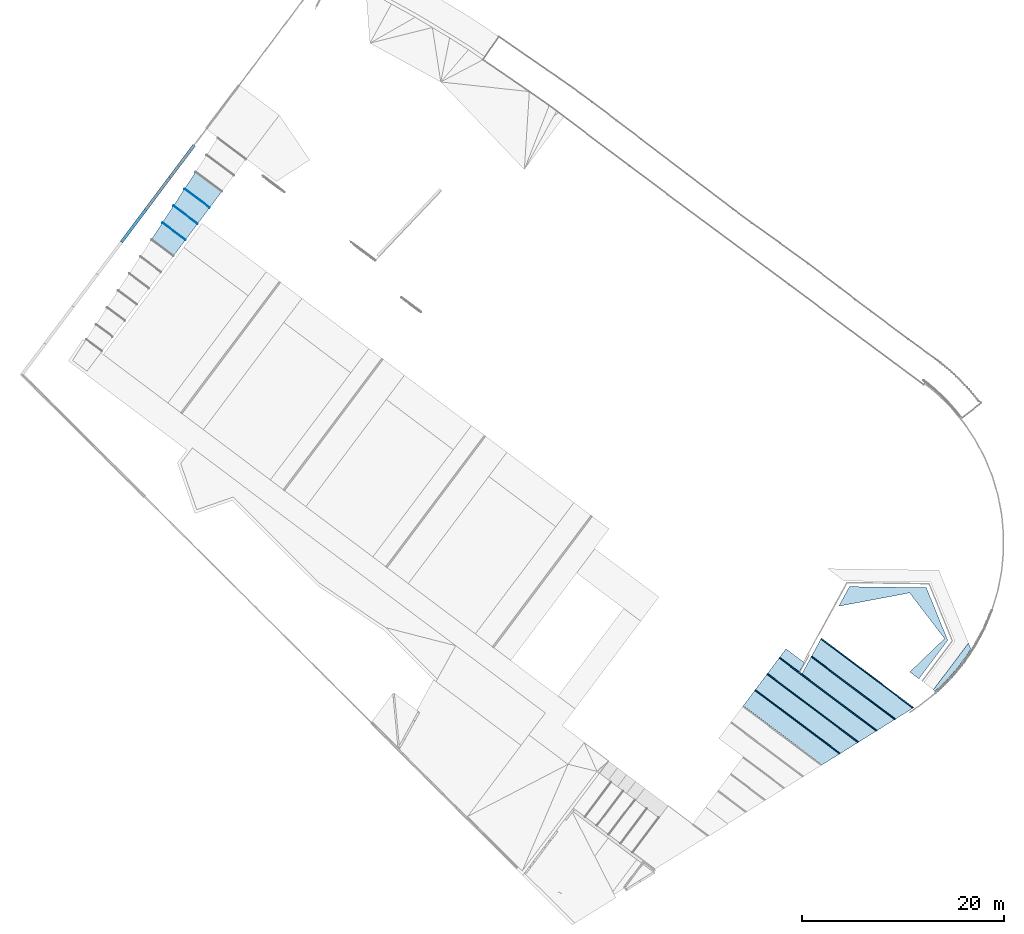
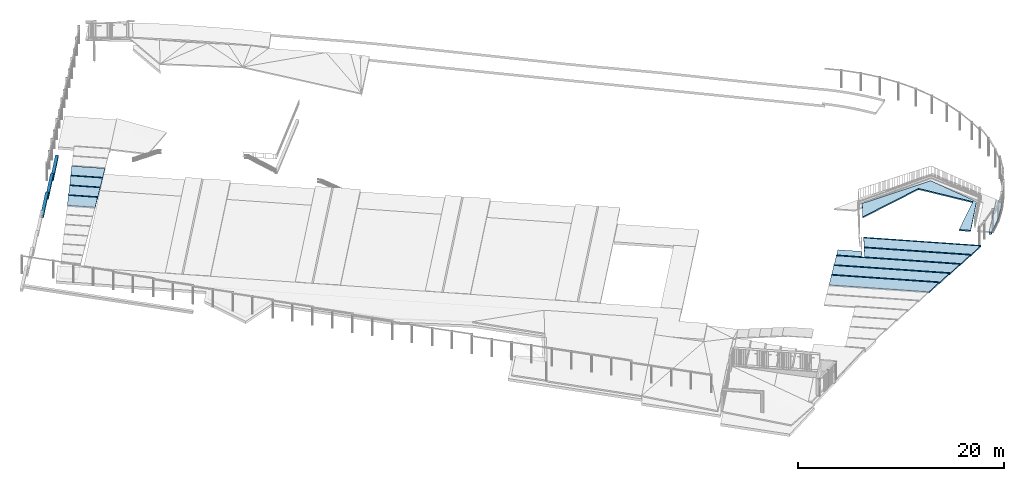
# One storey, part 22 of 33: 23 slabs.
"""IFC2X3 building model written with IfcOpenShell, lengths in metres."""

from ifc_helpers import new_model, entity, si_unit, converted_unit, derived_unit, direction, frame, frame_2d, origin, place, context, subcontext, project, spatial, polyline, circle_curve, ellipse_curve, parameter, trimmed, segment, composite_curve, rectangle, outline, extrude, clip, halfspace, material, layer, layer_set, layer_usage, type_object, element, save


model = new_model("IFC2X3")

# Units and contexts
model_context = context("Model", 3, precision=1e-05, world=origin(), true_north=direction((6.123031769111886e-17, 1.0)))
body_context = subcontext(model_context, "Body", "Model", "MODEL_VIEW")
ifc_project = project(units=[si_unit("LENGTHUNIT", "METRE"), si_unit("AREAUNIT", "SQUARE_METRE"), si_unit("VOLUMEUNIT", "CUBIC_METRE"), converted_unit("PLANEANGLEUNIT", "DEGREE", entity("IfcRatioMeasure", 0.017453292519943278), si_unit("PLANEANGLEUNIT", "RADIAN"), dimensions=[0, 0, 0, 0, 0, 0, 0]), si_unit("MASSUNIT", "GRAM", prefix="KILO"), derived_unit("MASSDENSITYUNIT", [(si_unit("MASSUNIT", "GRAM", prefix="KILO"), 1), (si_unit("LENGTHUNIT", "METRE"), -3)]), derived_unit("IONCONCENTRATIONUNIT", [(si_unit("MASSUNIT", "GRAM", prefix="KILO"), 1), (si_unit("LENGTHUNIT", "METRE"), -3)]), derived_unit("MOMENTOFINERTIAUNIT", [(si_unit("LENGTHUNIT", "METRE"), 4)]), si_unit("TIMEUNIT", "SECOND"), si_unit("FREQUENCYUNIT", "HERTZ"), si_unit("THERMODYNAMICTEMPERATUREUNIT", "DEGREE_CELSIUS"), derived_unit("THERMALTRANSMITTANCEUNIT", [(si_unit("MASSUNIT", "GRAM", prefix="KILO"), 1), (si_unit("THERMODYNAMICTEMPERATUREUNIT", "KELVIN"), -1), (si_unit("TIMEUNIT", "SECOND"), -3)]), derived_unit("THERMALCONDUCTANCEUNIT", [(si_unit("MASSUNIT", "GRAM", prefix="KILO"), 1), (si_unit("THERMODYNAMICTEMPERATUREUNIT", "KELVIN"), -1), (si_unit("TIMEUNIT", "SECOND"), -3), (si_unit("LENGTHUNIT", "METRE"), 1)]), derived_unit("VOLUMETRICFLOWRATEUNIT", [(si_unit("LENGTHUNIT", "METRE"), 3), (si_unit("TIMEUNIT", "SECOND"), -1)]), derived_unit("MASSFLOWRATEUNIT", [(si_unit("MASSUNIT", "GRAM", prefix="KILO"), 1), (si_unit("TIMEUNIT", "SECOND"), -1)]), derived_unit("ROTATIONALFREQUENCYUNIT", [(si_unit("TIMEUNIT", "SECOND"), -1)]), si_unit("ELECTRICCURRENTUNIT", "AMPERE"), si_unit("ELECTRICVOLTAGEUNIT", "VOLT"), si_unit("POWERUNIT", "WATT"), si_unit("FORCEUNIT", "NEWTON", prefix="KILO"), si_unit("ILLUMINANCEUNIT", "LUX"), si_unit("LUMINOUSFLUXUNIT", "LUMEN"), si_unit("LUMINOUSINTENSITYUNIT", "CANDELA"), derived_unit("USERDEFINED", [(si_unit("MASSUNIT", "GRAM", prefix="KILO"), -1), (si_unit("LENGTHUNIT", "METRE"), -2), (si_unit("TIMEUNIT", "SECOND"), 3), (si_unit("LUMINOUSFLUXUNIT", "LUMEN"), 1)]), derived_unit("USERDEFINED", [(si_unit("MASSUNIT", "GRAM", prefix="KILO"), 1), (si_unit("TIMEUNIT", "SECOND"), -3), (si_unit("LENGTHUNIT", "METRE"), 3), (si_unit("ELECTRICCURRENTUNIT", "AMPERE"), -2)]), derived_unit("SOUNDPOWERUNIT", [(si_unit("MASSUNIT", "GRAM", prefix="KILO"), 1), (si_unit("TIMEUNIT", "SECOND"), -3), (si_unit("LENGTHUNIT", "METRE"), 2)]), derived_unit("SOUNDPRESSUREUNIT", [(si_unit("MASSUNIT", "GRAM", prefix="KILO"), 1), (si_unit("LENGTHUNIT", "METRE"), -1), (si_unit("TIMEUNIT", "SECOND"), -2)]), derived_unit("LINEARVELOCITYUNIT", [(si_unit("LENGTHUNIT", "METRE"), 1), (si_unit("TIMEUNIT", "SECOND"), -1)]), si_unit("PRESSUREUNIT", "PASCAL"), derived_unit("USERDEFINED", [(si_unit("MASSUNIT", "GRAM", prefix="KILO"), 1), (si_unit("LENGTHUNIT", "METRE"), -2), (si_unit("TIMEUNIT", "SECOND"), -2)]), derived_unit("LINEARFORCEUNIT", [(si_unit("MASSUNIT", "GRAM", prefix="KILO"), 1), (si_unit("TIMEUNIT", "SECOND"), -2)]), derived_unit("PLANARFORCEUNIT", [(si_unit("MASSUNIT", "GRAM", prefix="KILO"), 1), (si_unit("LENGTHUNIT", "METRE"), -1), (si_unit("TIMEUNIT", "SECOND"), -2)]), derived_unit("SPECIFICHEATCAPACITYUNIT", [(si_unit("THERMODYNAMICTEMPERATUREUNIT", "KELVIN"), -1), (si_unit("LENGTHUNIT", "METRE"), 2), (si_unit("TIMEUNIT", "SECOND"), -2)]), derived_unit("HEATINGVALUEUNIT", [(si_unit("LENGTHUNIT", "METRE"), 2), (si_unit("TIMEUNIT", "SECOND"), -2)]), derived_unit("VAPORPERMEABILITYUNIT", [(si_unit("LENGTHUNIT", "METRE"), -1), (si_unit("TIMEUNIT", "SECOND"), 1)]), derived_unit("DYNAMICVISCOSITYUNIT", [(si_unit("MASSUNIT", "GRAM", prefix="KILO"), 1), (si_unit("TIMEUNIT", "SECOND"), -1), (si_unit("LENGTHUNIT", "METRE"), -1)]), derived_unit("THERMALEXPANSIONCOEFFICIENTUNIT", [(si_unit("THERMODYNAMICTEMPERATUREUNIT", "KELVIN"), -1)]), derived_unit("MODULUSOFELASTICITYUNIT", [(si_unit("MASSUNIT", "GRAM", prefix="KILO"), 1), (si_unit("LENGTHUNIT", "METRE"), -1), (si_unit("TIMEUNIT", "SECOND"), -2)]), derived_unit("ISOTHERMALMOISTURECAPACITYUNIT", [(si_unit("LENGTHUNIT", "METRE"), 3), (si_unit("MASSUNIT", "GRAM", prefix="KILO"), -1)]), derived_unit("MOISTUREDIFFUSIVITYUNIT", [(si_unit("TIMEUNIT", "SECOND"), -1), (si_unit("LENGTHUNIT", "METRE"), 2)])], contexts=[model_context])

# Site, building, storey
site_placement = place(None, origin())
site = spatial("IfcSite", under=ifc_project, at=site_placement, Name="Superficie", CompositionType="ELEMENT")
building_placement = place(site_placement, frame((0.0, 0.0, 235.0), z_axis=(0.0, 0.0, 1.0), x_axis=(-0.7996477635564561, 0.6004693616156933, 0.0)))
building = spatial("IfcBuilding", under=site, at=building_placement, CompositionType="ELEMENT")
storey_placement = place(building_placement, origin())
storey = spatial("IfcBuildingStorey", under=building, at=storey_placement, Name="P0- Escola", CompositionType="ELEMENT", Elevation=0.0)

# Slabs
ifc_material_1 = material(Name="_Topografia- Plataformes")
ifc_layer_1 = layer(ifc_material_1, 0.29999999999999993)
ifc_layer_set_1 = layer_set([ifc_layer_1], Name="Plataforma:300 mm")
ifc_layer_usage_1 = layer_usage(ifc_layer_set_1, "AXIS3", "POSITIVE", 0.0)
slab_type_1 = type_object("IfcSlabType", Name="Plataforma:300 mm", PredefinedType="FLOOR", material=ifc_layer_set_1)
slab_1_placement = place(storey_placement, origin())
element("IfcSlab", 1, at=slab_1_placement, inside=storey, type_object=slab_type_1, material=ifc_layer_usage_1, Name="Plataforma:300 mm", ObjectType="Plataforma:300 mm", PredefinedType="FLOOR", context=body_context, shape_type="SweptSolid", body=[
    extrude(rectangle(XDim=4.000000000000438, YDim=0.3000158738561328, at=frame_2d((0.0, -8.659739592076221e-15), x_axis=(1.0, 0.0))), frame((79.69492994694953, -40.14728884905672, -3.0), z_axis=(0.0, 0.0, 1.0), x_axis=(0.0, 1.0, 0.0)), (0.0, 0.0, 1.0), 0.30000000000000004),
])
slab_2_placement = place(storey_placement, origin())
element("IfcSlab", 2, at=slab_2_placement, inside=storey, type_object=slab_type_1, material=ifc_layer_usage_1, Name="Plataforma:300 mm", ObjectType="Plataforma:300 mm", PredefinedType="FLOOR", context=body_context, shape_type="SweptSolid", body=[
    extrude(rectangle(XDim=4.000000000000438, YDim=0.3000158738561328, at=frame_2d((0.0, -8.659739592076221e-15), x_axis=(1.0, 0.0))), frame((79.69492994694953, -36.14728884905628, -2.399999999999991), z_axis=(0.0, 0.0, 1.0), x_axis=(0.0, 1.0, 0.0)), (0.0, 0.0, 1.0), 0.30000000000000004),
])
slab_3_placement = place(storey_placement, origin())
element("IfcSlab", 3, at=slab_3_placement, inside=storey, type_object=slab_type_1, material=ifc_layer_usage_1, Name="Plataforma:300 mm", ObjectType="Plataforma:300 mm", PredefinedType="FLOOR", context=body_context, shape_type="SweptSolid", body=[
    extrude(rectangle(XDim=4.000000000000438, YDim=0.3000158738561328, at=frame_2d((0.0, -8.659739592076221e-15), x_axis=(1.0, 0.0))), frame((79.69492994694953, -32.14728884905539, -1.799999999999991), z_axis=(0.0, 0.0, 1.0), x_axis=(0.0, 1.0, 0.0)), (0.0, 0.0, 1.0), 0.30000000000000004),
])
slab_4_placement = place(storey_placement, frame((-11.88286093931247, -48.75630244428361, -5.303934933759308)))
element("IfcSlab", 4, at=slab_4_placement, inside=storey, type_object=slab_type_1, material=ifc_layer_usage_1, Name="Plataforma:300 mm", ObjectType="Plataforma:300 mm", PredefinedType="FLOOR", context=body_context, shape_type="SweptSolid", body=[
    extrude(outline(composite_curve([segment(trimmed(ellipse_curve(frame_2d((19.143480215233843, -3.9238751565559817), x_axis=(1.0, 0.0)), 19.64999999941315, 19.6770600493), [parameter(168.4973246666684)], [parameter(184.4594766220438)], True, "PARAMETER"), True, "CONTINUOUS"), segment(polyline([(-0.44703089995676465, -5.453845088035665), (0.11185728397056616, -5.7894867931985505)]), True, "CONTINUOUS"), segment(polyline([(0.11185728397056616, -5.7894867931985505), (0.11185728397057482, 0.0)]), True, "CONTINUOUS"), segment(polyline([(0.11185728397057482, 0.0), (-0.11185728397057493, 0.0)]), True, "CONTINUOUS")], self_intersect=False)), frame((0.5064860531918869, 5.781525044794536, 0.6039349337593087), z_axis=(0.0, -0.052426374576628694, 0.9986247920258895), x_axis=(1.0, 0.0, 0.0)), (0.0, -0.052426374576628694, -0.9986247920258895), 0.3004131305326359),
])
ifc_material_2 = material(Name="_Formigó- Solera- T1- STR")
ifc_layer_2 = layer(ifc_material_2, 0.14999999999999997)
ifc_layer_set_2 = layer_set([ifc_layer_2], Name="Suelo:STR- L- Formigó- Solera- T1- 15 cm")
ifc_layer_usage_2 = layer_usage(ifc_layer_set_2, "AXIS3", "POSITIVE", 0.0)
slab_type_2 = type_object("IfcSlabType", Name="Suelo:STR- L- Formigó- Solera- T1- 15 cm", PredefinedType="FLOOR", material=ifc_layer_set_2)
slab_5_placement = place(storey_placement, origin())
element("IfcSlab", 5, at=slab_5_placement, inside=storey, type_object=slab_type_2, material=ifc_layer_usage_2, Name="Suelo:STR- L- Formigó- Solera- T1- 15 cm", ObjectType="Suelo:STR- L- Formigó- Solera- T1- 15 cm", PredefinedType="FLOOR", context=body_context, shape_type="SweptSolid", body=[
    clip(clip(extrude(outline(polyline([(-1.3219334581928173, -4.225105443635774), (3.4411622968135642, -4.225105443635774), (3.4411622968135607, -3.100743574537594), (-1.2691755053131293, -3.871489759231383), (-2.810056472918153, 1.6187749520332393), (2.4634552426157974, 6.439723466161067), (0.27423440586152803, 6.759623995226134), (-4.218848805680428, 0.6043218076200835), (-1.3219334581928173, -4.225105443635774)])), frame((-5.239412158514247, -46.41525167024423, -4.624330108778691), z_axis=(0.0, -0.019996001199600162, -0.999800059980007), x_axis=(0.0, 0.999800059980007, -0.019996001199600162)), (0.019996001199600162, 0.0, 0.999800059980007), 0.1500600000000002), halfspace(frame((-2.371027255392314, -47.858103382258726, -4.745503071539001), z_axis=(0.0, -0.01999600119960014, -0.999800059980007), x_axis=(0.0, -0.999800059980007, 0.01999600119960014)), False)), halfspace(frame((-2.371027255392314, -47.858103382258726, -4.595473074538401), z_axis=(0.0, 0.01999600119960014, 0.999800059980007), x_axis=(0.0, 0.999800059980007, -0.01999600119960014)), False)),
])
slab_6_placement = place(storey_placement, origin())
element("IfcSlab", 6, at=slab_6_placement, inside=storey, type_object=slab_type_2, material=ifc_layer_usage_2, Name="Suelo:STR- L- Formigó- Solera- T1- 15 cm", ObjectType="Suelo:STR- L- Formigó- Solera- T1- 15 cm", PredefinedType="FLOOR", context=body_context, shape_type="SweptSolid", body=[
    clip(clip(extrude(outline(polyline([(-0.04012779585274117, -1.5570002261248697), (0.04012779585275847, -1.5570002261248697), (0.04012779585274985, 1.5543660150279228), (-0.04012779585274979, 1.5596344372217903), (-0.04012779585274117, -1.5570002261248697)])), frame((76.30214790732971, -38.10019175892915, -2.1677999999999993), z_axis=(0.0, 0.0797452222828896, -0.9968152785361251), x_axis=(0.0, 0.9968152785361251, 0.0797452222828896)), (-0.0797452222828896, 0.0, 0.9968152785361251), 0.15096000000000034), halfspace(frame((74.74514768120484, -38.06019175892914, -2.315079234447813), z_axis=(0.0, 0.07974522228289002, -0.9968152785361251), x_axis=(0.0, 0.9968152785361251, 0.07974522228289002)), False)), halfspace(frame((74.74514768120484, -38.06019175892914, -2.1645999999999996), z_axis=(0.0, -0.07974522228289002, 0.9968152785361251), x_axis=(0.0, -0.9968152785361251, -0.07974522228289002)), False)),
])
slab_7_placement = place(storey_placement, origin())
element("IfcSlab", 7, at=slab_7_placement, inside=storey, type_object=slab_type_2, material=ifc_layer_usage_2, Name="Suelo:STR- L- Formigó- Solera- T1- 15 cm", ObjectType="Suelo:STR- L- Formigó- Solera- T1- 15 cm", PredefinedType="FLOOR", context=body_context, shape_type="SweptSolid", body=[
    clip(clip(extrude(outline(polyline([(-0.040127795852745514, -1.4911449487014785), (0.04012779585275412, -1.4911449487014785), (0.040127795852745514, 1.4885107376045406), (-0.04012779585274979, 1.493779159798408), (-0.040127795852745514, -1.4911449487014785)])), frame((76.2362926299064, -36.10019175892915, -1.9247999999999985), z_axis=(0.0, 0.0797452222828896, -0.9968152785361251), x_axis=(0.0, 0.9968152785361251, 0.0797452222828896)), (-0.0797452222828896, 0.0, 0.9968152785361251), 0.15096000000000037), halfspace(frame((74.74514768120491, -36.06019175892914, -2.072079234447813), z_axis=(0.0, 0.07974522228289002, -0.9968152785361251), x_axis=(0.0, 0.9968152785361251, 0.07974522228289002)), False)), halfspace(frame((74.74514768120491, -36.06019175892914, -1.9215999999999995), z_axis=(0.0, -0.07974522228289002, 0.9968152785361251), x_axis=(0.0, -0.9968152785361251, -0.07974522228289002)), False)),
])
slab_8_placement = place(storey_placement, origin())
element("IfcSlab", 8, at=slab_8_placement, inside=storey, type_object=slab_type_2, material=ifc_layer_usage_2, Name="Suelo:STR- L- Formigó- Solera- T1- 15 cm", ObjectType="Suelo:STR- L- Formigó- Solera- T1- 15 cm", PredefinedType="FLOOR", context=body_context, shape_type="SweptSolid", body=[
    clip(clip(extrude(outline(polyline([(-0.04012779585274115, -1.4252896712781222), (0.04012779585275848, -1.4252896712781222), (0.04012779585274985, 1.4226554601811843), (-0.04012779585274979, 1.4279238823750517), (-0.04012779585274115, -1.4252896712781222)])), frame((76.17043735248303, -34.10019175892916, -1.6817999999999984), z_axis=(0.0, 0.0797452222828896, -0.9968152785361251), x_axis=(0.0, 0.9968152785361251, 0.0797452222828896)), (-0.0797452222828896, 0.0, 0.9968152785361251), 0.15096000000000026), halfspace(frame((74.74514768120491, -34.06019175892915, -1.829079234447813), z_axis=(0.0, 0.07974522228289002, -0.9968152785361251), x_axis=(0.0, 0.9968152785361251, 0.07974522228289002)), False)), halfspace(frame((74.74514768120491, -34.06019175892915, -1.6785999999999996), z_axis=(0.0, -0.07974522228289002, 0.9968152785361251), x_axis=(0.0, -0.9968152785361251, -0.07974522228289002)), False)),
])
slab_9_placement = place(storey_placement, origin())
element("IfcSlab", 9, at=slab_9_placement, inside=storey, type_object=slab_type_2, material=ifc_layer_usage_2, Name="Suelo:STR- L- Formigó- Solera- T1- 15 cm", ObjectType="Suelo:STR- L- Formigó- Solera- T1- 15 cm", PredefinedType="FLOOR", context=body_context, shape_type="SweptSolid", body=[
    clip(clip(extrude(outline(polyline([(-5.259338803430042, -0.05015974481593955), (5.2786719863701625, -0.0501597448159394), (5.240005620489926, 0.050159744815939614), (-5.259338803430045, 0.050159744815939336), (-5.259338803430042, -0.05015974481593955)])), frame((-2.414191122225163, -32.34019175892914, -3.6040160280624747), z_axis=(0.0, 0.0797452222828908, -0.996815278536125), x_axis=(-1.0, 0.0, 0.0)), (0.0, -0.0797452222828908, 0.996815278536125), 0.1509600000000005), halfspace(frame((-2.7608358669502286, -32.390191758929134, -3.7584952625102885), z_axis=(0.0, 0.07974522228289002, -0.9968152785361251), x_axis=(0.0, 0.9968152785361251, 0.07974522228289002)), False)), halfspace(frame((-2.7608358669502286, -32.390191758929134, -3.608016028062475), z_axis=(0.0, -0.07974522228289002, 0.9968152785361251), x_axis=(0.0, -0.9968152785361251, -0.07974522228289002)), False)),
])
slab_10_placement = place(storey_placement, origin())
element("IfcSlab", 10, at=slab_10_placement, inside=storey, type_object=slab_type_2, material=ifc_layer_usage_2, Name="Suelo:STR- L- Formigó- Solera- T1- 15 cm", ObjectType="Suelo:STR- L- Formigó- Solera- T1- 15 cm", PredefinedType="FLOOR", context=body_context, shape_type="SweptSolid", body=[
    clip(clip(extrude(outline(polyline([(-5.645991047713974, -0.05015974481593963), (5.66532443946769, -0.05015974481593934), (5.62665765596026, 0.050159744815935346), (-5.645991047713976, 0.05015974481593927), (-5.645991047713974, -0.05015974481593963)])), frame((-2.8008433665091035, -34.34019175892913, -3.844016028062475), z_axis=(0.0, 0.0797452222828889, -0.9968152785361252), x_axis=(-1.0, 0.0, 0.0)), (0.0, -0.0797452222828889, 0.9968152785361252), 0.15096000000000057), halfspace(frame((-2.760835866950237, -34.390191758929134, -3.9984952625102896), z_axis=(0.0, 0.07974522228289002, -0.9968152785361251), x_axis=(0.0, 0.9968152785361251, 0.07974522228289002)), False)), halfspace(frame((-2.760835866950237, -34.390191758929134, -3.8480160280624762), z_axis=(0.0, -0.07974522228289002, 0.9968152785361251), x_axis=(0.0, -0.9968152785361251, -0.07974522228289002)), False)),
])
slab_11_placement = place(storey_placement, origin())
element("IfcSlab", 11, at=slab_11_placement, inside=storey, type_object=slab_type_2, material=ifc_layer_usage_2, Name="Suelo:STR- L- Formigó- Solera- T1- 15 cm", ObjectType="Suelo:STR- L- Formigó- Solera- T1- 15 cm", PredefinedType="FLOOR", context=body_context, shape_type="SweptSolid", body=[
    clip(clip(extrude(outline(polyline([(-6.032658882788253, -0.050159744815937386), (6.0519922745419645, -0.05015974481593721), (6.0133254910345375, 0.050159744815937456), (-6.032658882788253, 0.05015974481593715), (-6.032658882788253, -0.050159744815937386)])), frame((-3.187511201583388, -36.34019175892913, -4.084016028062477), z_axis=(0.0, 0.07974522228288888, -0.9968152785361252), x_axis=(-1.0, 0.0, 0.0)), (0.0, -0.07974522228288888, 0.9968152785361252), 0.1509600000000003), halfspace(frame((-2.760835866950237, -36.390191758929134, -4.23849526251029), z_axis=(0.0, 0.07974522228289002, -0.9968152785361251), x_axis=(0.0, 0.9968152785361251, 0.07974522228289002)), False)), halfspace(frame((-2.760835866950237, -36.390191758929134, -4.088016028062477), z_axis=(0.0, -0.07974522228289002, 0.9968152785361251), x_axis=(0.0, -0.9968152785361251, -0.07974522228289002)), False)),
])
slab_12_placement = place(storey_placement, origin())
element("IfcSlab", 12, at=slab_12_placement, inside=storey, type_object=slab_type_2, material=ifc_layer_usage_2, Name="Suelo:STR- L- Formigó- Solera- T1- 15 cm", ObjectType="Suelo:STR- L- Formigó- Solera- T1- 15 cm", PredefinedType="FLOOR", context=body_context, shape_type="SweptSolid", body=[
    clip(clip(extrude(outline(polyline([(-5.194099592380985, -0.05015974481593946), (5.206125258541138, -0.05015974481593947), (5.167458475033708, 0.050159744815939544), (-5.1794841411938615, 0.050159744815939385), (-5.194099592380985, -0.05015974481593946)])), frame((-4.806713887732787, -38.34019175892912, -4.322416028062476), z_axis=(0.0, 0.07974522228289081, -0.996815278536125), x_axis=(-1.0, 0.0, 0.0)), (0.0, -0.07974522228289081, 0.996815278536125), 0.15096000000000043), halfspace(frame((-2.760835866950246, -38.390191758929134, -4.476895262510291), z_axis=(0.0, 0.07974522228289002, -0.9968152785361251), x_axis=(0.0, 0.9968152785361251, 0.07974522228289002)), False)), halfspace(frame((-2.760835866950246, -38.390191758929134, -4.326416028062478), z_axis=(0.0, -0.07974522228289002, 0.9968152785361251), x_axis=(0.0, -0.9968152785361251, -0.07974522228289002)), False)),
])
slab_13_placement = place(storey_placement, origin())
element("IfcSlab", 13, at=slab_13_placement, inside=storey, type_object=slab_type_2, material=ifc_layer_usage_2, Name="Suelo:STR- L- Formigó- Solera- T1- 15 cm", ObjectType="Suelo:STR- L- Formigó- Solera- T1- 15 cm", PredefinedType="FLOOR", context=body_context, shape_type="SweptSolid", body=[
    clip(clip(extrude(outline(composite_curve([segment(polyline([(-5.722467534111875, -0.05015974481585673), (5.732846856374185, -0.05015974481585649)]), True, "CONTINUOUS"), segment(trimmed(circle_curve(frame_2d((-12.915252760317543, -6.5693515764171), x_axis=(0.9439789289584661, 0.3300057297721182)), 19.75478376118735), [parameter(0.0)], [parameter(0.30852078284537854)], True, "PARAMETER"), True, "CONTINUOUS"), segment(polyline([(5.6974727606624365, 0.050159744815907), (-5.707852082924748, 0.05015974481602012)]), True, "CONTINUOUS"), segment(polyline([(-5.707852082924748, 0.05015974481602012), (-5.722467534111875, -0.05015974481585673)]), True, "CONTINUOUS")], self_intersect=False)), frame((-5.042772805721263, -40.340191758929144, -4.56241602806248), z_axis=(0.0, 0.0797452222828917, -0.996815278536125), x_axis=(-1.0, 0.0, 0.0)), (0.0, -0.0797452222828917, 0.996815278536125), 0.1509600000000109), halfspace(frame((-2.760835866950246, -40.39019175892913, -4.716895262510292), z_axis=(0.0, 0.07974522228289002, -0.9968152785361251), x_axis=(0.0, 0.9968152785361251, 0.07974522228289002)), False)), halfspace(frame((-2.760835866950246, -40.39019175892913, -4.566416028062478), z_axis=(0.0, -0.07974522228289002, 0.9968152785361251), x_axis=(0.0, -0.9968152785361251, -0.07974522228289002)), False)),
])
ifc_material_3 = material(Name="_Saulo T1- PAV")
ifc_layer_3 = layer(ifc_material_3, 0.14999999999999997)
ifc_layer_set_3 = layer_set([ifc_layer_3], Name="Suelo:PAV- Saulo- 15 cm- T1")
ifc_layer_usage_3 = layer_usage(ifc_layer_set_3, "AXIS3", "POSITIVE", 0.0)
slab_type_3 = type_object("IfcSlabType", Name="Suelo:PAV- Saulo- 15 cm- T1", PredefinedType="FLOOR", material=ifc_layer_set_3)
slab_14_placement = place(storey_placement, origin())
element("IfcSlab", 14, at=slab_14_placement, inside=storey, type_object=slab_type_3, material=ifc_layer_usage_3, Name="Suelo:PAV- Saulo- 15 cm- T1", ObjectType="Suelo:PAV- Saulo- 15 cm- T1", PredefinedType="FLOOR", context=body_context, shape_type="SweptSolid", body=[
    clip(clip(extrude(outline(polyline([(-0.9630671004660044, -1.5899278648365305), (0.9630671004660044, -1.5899278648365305), (0.9630671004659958, 1.5267067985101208), (-0.963067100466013, 1.6531489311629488), (-0.9630671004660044, -1.5899278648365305)])), frame((76.33507554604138, -39.10019175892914, -2.3307999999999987), z_axis=(0.0, 0.07974522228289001, -0.9968152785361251), x_axis=(0.0, 0.9968152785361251, 0.07974522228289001)), (-0.07974522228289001, 0.0, 0.9968152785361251), 0.1509600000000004), halfspace(frame((74.74514768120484, -38.14019175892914, -2.404479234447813), z_axis=(0.0, 0.07974522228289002, -0.9968152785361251), x_axis=(0.0, 0.9968152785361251, 0.07974522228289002)), False)), halfspace(frame((74.74514768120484, -38.14019175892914, -2.253999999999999), z_axis=(0.0, -0.07974522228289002, 0.9968152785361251), x_axis=(0.0, -0.9968152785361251, -0.07974522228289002)), False)),
])
slab_15_placement = place(storey_placement, origin())
element("IfcSlab", 15, at=slab_15_placement, inside=storey, type_object=slab_type_3, material=ifc_layer_usage_3, Name="Suelo:PAV- Saulo- 15 cm- T1", ObjectType="Suelo:PAV- Saulo- 15 cm- T1", PredefinedType="FLOOR", context=body_context, shape_type="SweptSolid", body=[
    clip(clip(extrude(outline(polyline([(-0.9630671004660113, -1.5240725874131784), (0.9630671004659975, -1.5240725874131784), (0.9630671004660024, 1.4608515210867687), (-0.9630671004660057, 1.587293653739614), (-0.9630671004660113, -1.5240725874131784)])), frame((76.26922026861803, -37.10019175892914, -2.0877999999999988), z_axis=(0.0, 0.07974522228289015, -0.9968152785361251), x_axis=(0.0, 0.9968152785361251, 0.07974522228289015)), (-0.07974522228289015, 0.0, 0.9968152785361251), 0.15096000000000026), halfspace(frame((74.74514768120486, -36.14019175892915, -2.1614792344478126), z_axis=(0.0, 0.07974522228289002, -0.9968152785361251), x_axis=(0.0, 0.9968152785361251, 0.07974522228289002)), False)), halfspace(frame((74.74514768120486, -36.14019175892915, -2.0109999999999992), z_axis=(0.0, -0.07974522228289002, 0.9968152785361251), x_axis=(0.0, -0.9968152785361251, -0.07974522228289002)), False)),
])
slab_16_placement = place(storey_placement, origin())
element("IfcSlab", 16, at=slab_16_placement, inside=storey, type_object=slab_type_3, material=ifc_layer_usage_3, Name="Suelo:PAV- Saulo- 15 cm- T1", ObjectType="Suelo:PAV- Saulo- 15 cm- T1", PredefinedType="FLOOR", context=body_context, shape_type="SweptSolid", body=[
    clip(clip(extrude(outline(polyline([(-0.9630671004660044, -1.4582173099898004), (0.9630671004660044, -1.4582173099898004), (0.9630671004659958, 1.394996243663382), (-0.963067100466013, 1.5214383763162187), (-0.9630671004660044, -1.4582173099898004)])), frame((76.20336499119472, -35.10019175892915, -1.844799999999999), z_axis=(0.0, 0.07974522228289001, -0.9968152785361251), x_axis=(0.0, 0.9968152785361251, 0.07974522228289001)), (-0.07974522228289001, 0.0, 0.9968152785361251), 0.15096000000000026), halfspace(frame((74.74514768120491, -34.14019175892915, -1.9184792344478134), z_axis=(0.0, 0.07974522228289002, -0.9968152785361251), x_axis=(0.0, 0.9968152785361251, 0.07974522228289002)), False)), halfspace(frame((74.74514768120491, -34.14019175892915, -1.7679999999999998), z_axis=(0.0, -0.07974522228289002, 0.9968152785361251), x_axis=(0.0, -0.9968152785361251, -0.07974522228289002)), False)),
])
slab_17_placement = place(storey_placement, origin())
element("IfcSlab", 17, at=slab_17_placement, inside=storey, type_object=slab_type_3, material=ifc_layer_usage_3, Name="Suelo:PAV- Saulo- 15 cm- T1", ObjectType="Suelo:PAV- Saulo- 15 cm- T1", PredefinedType="FLOOR", context=body_context, shape_type="SweptSolid", body=[
    clip(clip(extrude(outline(polyline([(-0.9630671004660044, -1.3923620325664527), (0.9630671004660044, -1.3923620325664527), (0.9630671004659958, 1.3291409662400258), (-0.963067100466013, 1.4555830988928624), (-0.9630671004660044, -1.3923620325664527)])), frame((76.13750971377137, -33.10019175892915, -1.6017999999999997), z_axis=(0.0, 0.07974522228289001, -0.9968152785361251), x_axis=(0.0, 0.9968152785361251, 0.07974522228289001)), (-0.07974522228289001, 0.0, 0.9968152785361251), 0.15096000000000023), halfspace(frame((74.74514768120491, -32.140191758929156, -1.6754792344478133), z_axis=(0.0, 0.07974522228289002, -0.9968152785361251), x_axis=(0.0, 0.9968152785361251, 0.07974522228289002)), False)), halfspace(frame((74.74514768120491, -32.140191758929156, -1.525), z_axis=(0.0, -0.07974522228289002, 0.9968152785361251), x_axis=(0.0, -0.9968152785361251, -0.07974522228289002)), False)),
])
slab_18_placement = place(storey_placement, origin())
element("IfcSlab", 18, at=slab_18_placement, inside=storey, type_object=slab_type_3, material=ifc_layer_usage_3, Name="Suelo:PAV- Saulo- 15 cm- T1", ObjectType="Suelo:PAV- Saulo- 15 cm- T1", PredefinedType="FLOOR", context=body_context, shape_type="SweptSolid", body=[
    clip(clip(extrude(outline(polyline([(-5.066006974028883, -0.9530351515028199), (5.433337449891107, -0.9530351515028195), (4.6986764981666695, 0.9530351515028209), (-5.066006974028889, 0.9530351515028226), (-5.066006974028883, -0.9530351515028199)])), frame((-2.22085929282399, -31.340191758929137, -3.524016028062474), z_axis=(0.0, 0.07974522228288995, -0.9968152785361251), x_axis=(-1.0, 0.0, 0.0)), (0.0, -0.07974522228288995, 0.9968152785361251), 0.1509600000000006), halfspace(frame((-2.7608358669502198, -32.29019175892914, -3.750495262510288), z_axis=(0.0, 0.07974522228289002, -0.9968152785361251), x_axis=(0.0, 0.9968152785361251, 0.07974522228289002)), False)), halfspace(frame((-2.7608358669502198, -32.29019175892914, -3.6000160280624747), z_axis=(0.0, -0.07974522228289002, 0.9968152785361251), x_axis=(0.0, -0.9968152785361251, -0.07974522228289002)), False)),
])
slab_19_placement = place(storey_placement, origin())
element("IfcSlab", 19, at=slab_19_placement, inside=storey, type_object=slab_type_3, material=ifc_layer_usage_3, Name="Suelo:PAV- Saulo- 15 cm- T1", ObjectType="Suelo:PAV- Saulo- 15 cm- T1", PredefinedType="FLOOR", context=body_context, shape_type="SweptSolid", body=[
    clip(clip(extrude(outline(polyline([(-5.4526706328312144, -0.9530351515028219), (5.820001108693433, -0.9530351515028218), (5.085340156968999, 0.9530351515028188), (-5.452670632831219, 0.9530351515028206), (-5.4526706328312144, -0.9530351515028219)])), frame((-2.6075229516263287, -33.34019175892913, -3.7640160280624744), z_axis=(0.0, 0.07974522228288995, -0.9968152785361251), x_axis=(-1.0, 0.0, 0.0)), (0.0, -0.07974522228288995, 0.9968152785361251), 0.15096000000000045), halfspace(frame((-2.7608358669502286, -34.29019175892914, -3.9904952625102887), z_axis=(0.0, 0.07974522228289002, -0.9968152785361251), x_axis=(0.0, 0.9968152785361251, 0.07974522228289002)), False)), halfspace(frame((-2.7608358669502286, -34.29019175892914, -3.8400160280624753), z_axis=(0.0, -0.07974522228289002, 0.9968152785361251), x_axis=(0.0, -0.9968152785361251, -0.07974522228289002)), False)),
])
slab_20_placement = place(storey_placement, origin())
element("IfcSlab", 20, at=slab_20_placement, inside=storey, type_object=slab_type_3, material=ifc_layer_usage_3, Name="Suelo:PAV- Saulo- 15 cm- T1", ObjectType="Suelo:PAV- Saulo- 15 cm- T1", PredefinedType="FLOOR", context=body_context, shape_type="SweptSolid", body=[
    clip(clip(extrude(outline(polyline([(-5.839334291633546, -0.9530351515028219), (6.206664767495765, -0.9530351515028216), (5.472003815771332, 0.9530351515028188), (-5.839334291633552, 0.9530351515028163), (-5.839334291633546, -0.9530351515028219)])), frame((-2.9941866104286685, -35.34019175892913, -4.004016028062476), z_axis=(0.0, 0.07974522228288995, -0.9968152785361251), x_axis=(-1.0, 0.0, 0.0)), (0.0, -0.07974522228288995, 0.9968152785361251), 0.15096000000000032), halfspace(frame((-2.7608358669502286, -36.29019175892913, -4.23049526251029), z_axis=(0.0, 0.07974522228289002, -0.9968152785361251), x_axis=(0.0, 0.9968152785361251, 0.07974522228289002)), False)), halfspace(frame((-2.7608358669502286, -36.29019175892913, -4.080016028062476), z_axis=(0.0, -0.07974522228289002, 0.9968152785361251), x_axis=(0.0, -0.9968152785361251, -0.07974522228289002)), False)),
])
slab_21_placement = place(storey_placement, origin())
element("IfcSlab", 21, at=slab_21_placement, inside=storey, type_object=slab_type_3, material=ifc_layer_usage_3, Name="Suelo:PAV- Saulo- 15 cm- T1", ObjectType="Suelo:PAV- Saulo- 15 cm- T1", PredefinedType="FLOOR", context=body_context, shape_type="SweptSolid", body=[
    clip(clip(extrude(outline(polyline([(-5.059227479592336, -0.9530351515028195), (5.287715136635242, -0.9530351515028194), (4.553046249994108, 0.9530351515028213), (-4.781533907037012, 0.953035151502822), (-5.059227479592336, -0.9530351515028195)])), frame((-4.686457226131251, -37.34019175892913, -4.244016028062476), z_axis=(0.0, 0.07974522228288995, -0.9968152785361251), x_axis=(-1.0, 0.0, 0.0)), (0.0, -0.07974522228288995, 0.9968152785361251), 0.15096000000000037), halfspace(frame((-2.760835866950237, -38.29019175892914, -4.4704952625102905), z_axis=(0.0, 0.07974522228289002, -0.9968152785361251), x_axis=(0.0, 0.9968152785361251, 0.07974522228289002)), False)), halfspace(frame((-2.760835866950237, -38.29019175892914, -4.3200160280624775), z_axis=(0.0, -0.07974522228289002, 0.9968152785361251), x_axis=(0.0, -0.9968152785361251, -0.07974522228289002)), False)),
])
slab_22_placement = place(storey_placement, frame((-10.740245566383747, -40.29019175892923, -4.708895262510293)))
element("IfcSlab", 22, at=slab_22_placement, inside=storey, type_object=slab_type_3, material=ifc_layer_usage_3, Name="Suelo:PAV- Saulo- 15 cm- T1", ObjectType="Suelo:PAV- Saulo- 15 cm- T1", PredefinedType="FLOOR", context=body_context, shape_type="SweptSolid", body=[
    extrude(outline(composite_curve([segment(polyline([(-7.252003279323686, 1.9060703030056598), (-7.7996672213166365, 0.4851771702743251)]), True, "CONTINUOUS"), segment(trimmed(ellipse_curve(frame_2d((10.527941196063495, -6.6241607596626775), x_axis=(1.0, 0.0)), 19.64999999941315, 19.712779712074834), [parameter(158.86011695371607)], [parameter(160.36458345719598)], True, "PARAMETER"), True, "CONTINUOUS"), segment(polyline([(-7.979409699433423, 0.0), (3.4259151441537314, 0.0)]), True, "CONTINUOUS"), segment(polyline([(3.4259151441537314, 0.0), (3.148221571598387, 1.9060703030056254)]), True, "CONTINUOUS"), segment(polyline([(3.148221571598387, 1.9060703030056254), (-7.252003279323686, 1.9060703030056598)]), True, "CONTINUOUS")], self_intersect=False)), frame((7.97940969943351, 0.0, 0.15047923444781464), z_axis=(0.0, -0.07974522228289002, 0.9968152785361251), x_axis=(1.0, 0.0, 0.0)), (0.0, -0.07974522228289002, -0.9968152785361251), 0.1504792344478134),
])
slab_23_placement = place(storey_placement, origin())
element("IfcSlab", 23, at=slab_23_placement, inside=storey, type_object=slab_type_3, material=ifc_layer_usage_3, Name="Suelo:PAV- Saulo- 15 cm- T1", ObjectType="Suelo:PAV- Saulo- 15 cm- T1", PredefinedType="FLOOR", context=body_context, shape_type="SweptSolid", body=[
    extrude(outline(polyline([(-1.1850763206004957, -0.5250000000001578), (1.1083452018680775, -0.5250000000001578), (1.2618074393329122, 0.525000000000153), (-1.1850763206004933, 0.5250000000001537), (-1.1850763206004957, -0.5250000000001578)])), frame((1.6600713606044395, -36.915191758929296, -4.169999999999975), z_axis=(0.0, 0.0, -1.0), x_axis=(-1.0, 0.0, 0.0)), (0.0, 0.0, 1.0), 0.15000000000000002),
])

save(model, "model.ifc")
